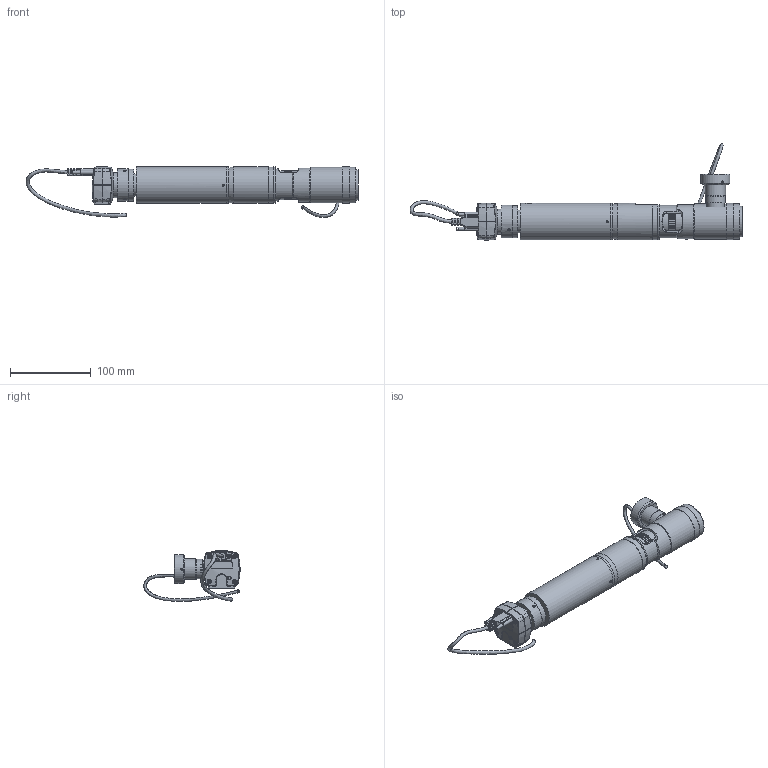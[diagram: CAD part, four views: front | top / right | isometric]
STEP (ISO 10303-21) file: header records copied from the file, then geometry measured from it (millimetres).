
FILE_DESCRIPTION(/* description */ (''),/* implementation_level */ '2;1');
FILE_NAME(/* name */ 'S:\Bureau-Technique\Vidéo\MA 730E-Z2-064-SC.stp',/* time_stamp */ '2018-10-08T09:50:30+02:00',/* author */ ('chu'),/* organization */ ('Marcel Aubert'),/* preprocessor_version */ 'ST-DEVELOPER v17.2',/* originating_system */ 'Autodesk Inventor 2019',/* authorisation */ '');
FILE_SCHEMA (('AUTOMOTIVE_DESIGN { 1 0 10303 214 3 1 1 }'));
Length unit declared in the file: millimetre
Products named in the file (1): Pièce1
Bounding box: 412 x 119.52 x 63.13 mm (x, y, z)
Volume: 414121.6 mm3; surface area: 104012.7 mm2
Topology: 2 solids, 13 shells, 1249 faces, 3379 edges, 2235 vertices
Faces by surface type: plane 612, cylinder 338, bspline 126, cone 97, torus 53, sphere 23
Full cylindrical faces by diameter (mm): 1.567 x2, 1.783 x2, 1.88 x4, 2 x4, 2.2 x2, 2.3 x2, 2.459 x12, 2.5 x2, 3 x5, 3.2 x1, 3.242 x5, 3.5 x4, 3.7 x1, 3.9 x2, 4 x3, 5 x3, 7.1 x2, 7.4 x2, 8.6 x3, 16 x1, 16.6 x1, 18.3 x1, 19 x2, 19.8 x1, 20 x3, 20.5 x1, 21.225 x1, 21.459 x2, 22.1 x1, 22.5 x1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
Entity records: 64613 total; most frequent: CARTESIAN_POINT 32223, ORIENTED_EDGE 6732, DIRECTION 6217, EDGE_CURVE 3366, AXIS2_PLACEMENT_3D 2378, VERTEX_POINT 2235, LINE 1461, VECTOR 1461
